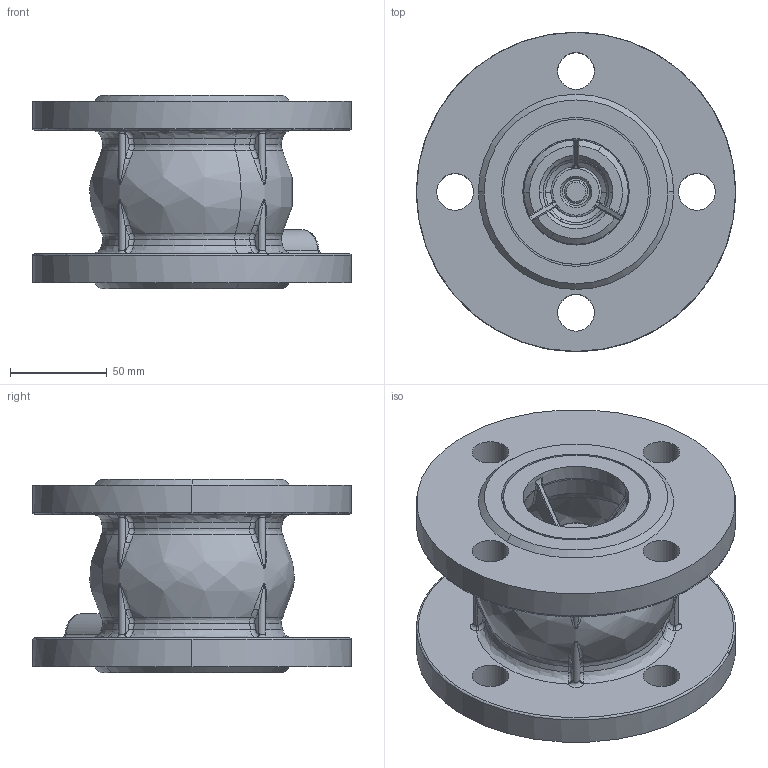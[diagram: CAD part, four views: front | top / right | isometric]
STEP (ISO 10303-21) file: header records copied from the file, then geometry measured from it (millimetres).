
FILE_DESCRIPTION (( 'STEP AP203' ), '1' );
FILE_NAME ('Assem17.STEP', '2017-03-31T13:40:25', ( 'User' ), ( 'shendu' ), 'SwSTEP 2.0', 'SolidWorks 2015', '' );
FILE_SCHEMA (( 'CONFIG_CONTROL_DESIGN' ));
Products named in the file (1): Assem17
Bounding box: 165 x 165 x 100 mm (x, y, z)
Volume: 743074.5 mm3; surface area: 171255.6 mm2
Topology: 6 solids, 6 shells, 479 faces, 1203 edges, 726 vertices
Faces by surface type: bspline 261, cylinder 118, plane 56, cone 44
Entity records: 71956 total; most frequent: CARTESIAN_POINT 62515, ORIENTED_EDGE 2370, DIRECTION 1268, EDGE_CURVE 1185, VERTEX_POINT 726, B_SPLINE_CURVE_WITH_KNOTS 630, AXIS2_PLACEMENT_3D 529, EDGE_LOOP 517
